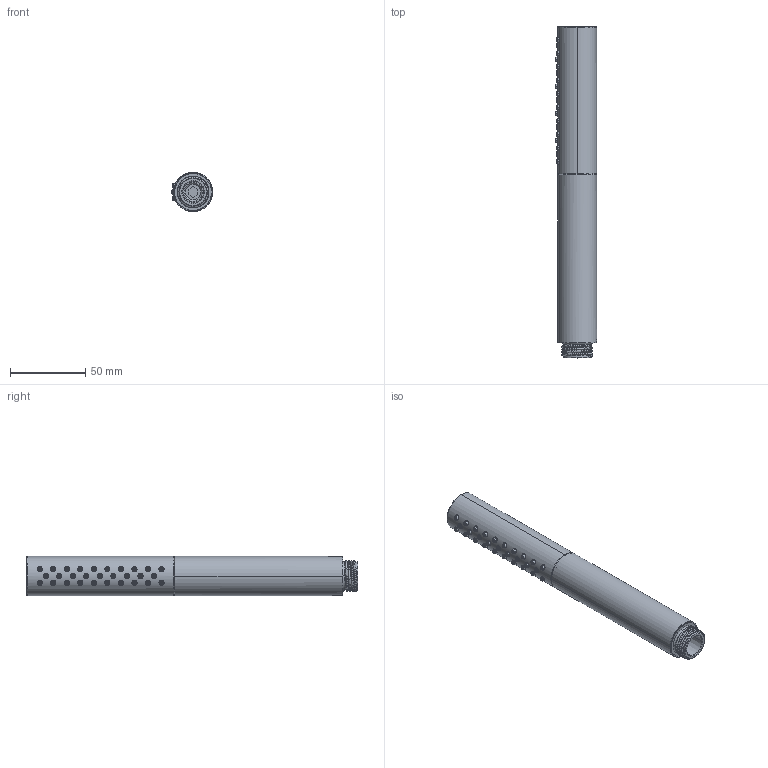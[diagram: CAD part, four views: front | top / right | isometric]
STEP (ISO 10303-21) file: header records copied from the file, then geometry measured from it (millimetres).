
FILE_DESCRIPTION((''),'2;1');
FILE_NAME('46671--_NEW_ASM','2024-06-06T11:17:30',('kaka1'),(''),'CREO PARAMETRIC BY PTC INC, 2022244','CREO PARAMETRIC BY PTC INC, 2022244','');
FILE_SCHEMA(('CONFIG_CONTROL_DESIGN'));
Length unit declared in the file: millimetre
Products named in the file (7): KG_1_1; PRT0001_5_1; PRT0002_13_1_1; PRT0002_13_ASM_1_ASM; P-H3081-2_2_1; PRT0004_2_1; 46671--_NEW_ASM
Assembly tree (6 placements, depth 3):
  46671--_NEW_ASM
    KG_1_1
    PRT0001_5_1
    PRT0002_13_ASM_1_ASM
      PRT0002_13_1_1
    P-H3081-2_2_1
    PRT0004_2_1
Bounding box: 27.5 x 220.7 x 26 mm (x, y, z)
Volume: 65562.8 mm3; surface area: 51739.3 mm2
Topology: 5 solids, 5 shells, 649 faces, 1778 edges, 1166 vertices
Faces by surface type: cylinder 260, plane 110, torus 103, bspline 95, cone 61, sphere 18, revolution 2
Entity records: 33691 total; most frequent: CARTESIAN_POINT 17504, ORIENTED_EDGE 3514, DIRECTION 3161, EDGE_CURVE 1757, AXIS2_PLACEMENT_3D 1338, VERTEX_POINT 1166, EDGE_LOOP 819, CIRCLE 772
